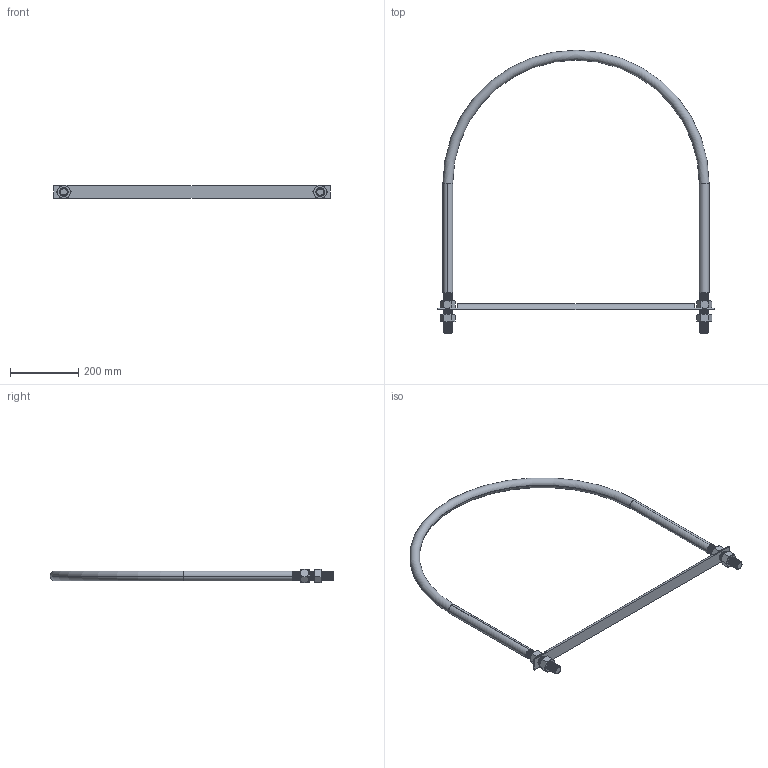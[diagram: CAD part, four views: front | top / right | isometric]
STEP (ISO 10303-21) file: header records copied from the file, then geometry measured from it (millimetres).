
FILE_DESCRIPTION (( 'STEP AP214' ), '1' );
FILE_NAME ('NUB1478.STEP', '2022-04-04T18:05:05', ( '' ), ( '' ), 'SwSTEP 2.0', 'SolidWorks 2021', '' );
FILE_SCHEMA (( 'AUTOMOTIVE_DESIGN' ));
Length unit declared in the file: inch
Products named in the file (4): FAS0050; UBT1005_UBT26-28-1-8 [NUB1478]; ROD0652_IR26-28 XL [ROD0652]; NUB1478
Assembly tree (6 placements, depth 2):
  NUB1478
    FAS0050  x4
    UBT1005_UBT26-28-1-8 [NUB1478]
    ROD0652_IR26-28 XL [ROD0652]
Bounding box: 812.8 x 831.95 x 39.77 mm (x, y, z)
Volume: 1700826.5 mm3; surface area: 592757.9 mm2
Topology: 7 solids, 7 shells, 309 faces, 817 edges, 522 vertices
Faces by surface type: cylinder 178, cone 76, plane 45, torus 6, bspline 4
Entity records: 19579 total; most frequent: CARTESIAN_POINT 14397, ORIENTED_EDGE 1238, DIRECTION 816, EDGE_CURVE 619, VERTEX_POINT 405, AXIS2_PLACEMENT_3D 308, EDGE_LOOP 230, ADVANCED_FACE 222
